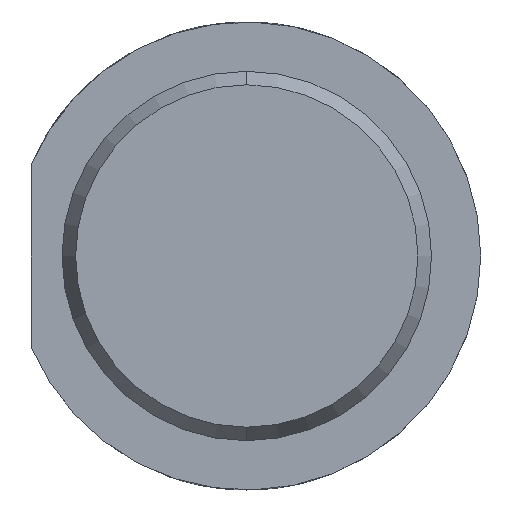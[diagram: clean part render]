
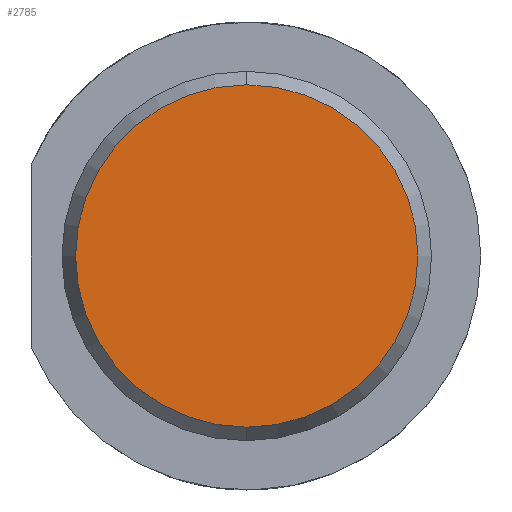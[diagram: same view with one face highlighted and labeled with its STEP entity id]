
A CAD part, left-side view. The second image highlights one B-rep face of the part: STEP entity #2785.
In plain terms, the highlighted planar face has unit normal (-1, 0, 0).
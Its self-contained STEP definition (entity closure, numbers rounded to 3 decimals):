
#70 = FACE_OUTER_BOUND ( 'NONE', #2965, .T. ) ;
#96 = CIRCLE ( 'NONE', #2609, 13.9 ) ;
#214 = CARTESIAN_POINT ( 'NONE',  ( 16., 0., 13.9 ) ) ;
#247 = VERTEX_POINT ( 'NONE', #214 ) ;
#342 = CARTESIAN_POINT ( 'NONE',  ( 16., -14.067, 14.067 ) ) ;
#344 = PLANE ( 'NONE',  #2597 ) ;
#347 = DIRECTION ( 'NONE',  ( 1., 0., 0. ) ) ;
#348 = DIRECTION ( 'NONE',  ( 0., 0., -1. ) ) ;
#818 = CARTESIAN_POINT ( 'NONE',  ( 16., 0., 0. ) ) ;
#819 = DIRECTION ( 'NONE',  ( -1., 0., 0. ) ) ;
#820 = DIRECTION ( 'NONE',  ( 0., 0., -1. ) ) ;
#896 = CIRCLE ( 'NONE', #2681, 13.9 ) ;
#1107 = VERTEX_POINT ( 'NONE', #3498 ) ;
#2597 = AXIS2_PLACEMENT_3D ( 'NONE', #342, #347, #348 ) ;
#2609 = AXIS2_PLACEMENT_3D ( 'NONE', #4304, #4305, #4306 ) ;
#2681 = AXIS2_PLACEMENT_3D ( 'NONE', #818, #819, #820 ) ;
#2785 = ADVANCED_FACE ( 'NONE', ( #70 ), #344, .F. ) ;
#2965 = EDGE_LOOP ( 'NONE', ( #3152, #3153 ) ) ;
#3152 = ORIENTED_EDGE ( 'NONE', *, *, #4016, .T. ) ;
#3153 = ORIENTED_EDGE ( 'NONE', *, *, #3801, .T. ) ;
#3498 = CARTESIAN_POINT ( 'NONE',  ( 16., 0., -13.9 ) ) ;
#3801 = EDGE_CURVE ( 'NONE', #247, #1107, #96, .T. ) ;
#4016 = EDGE_CURVE ( 'NONE', #1107, #247, #896, .T. ) ;
#4304 = CARTESIAN_POINT ( 'NONE',  ( 16., 0., 0. ) ) ;
#4305 = DIRECTION ( 'NONE',  ( -1., 0., 0. ) ) ;
#4306 = DIRECTION ( 'NONE',  ( 0., 0., -1. ) ) ;
